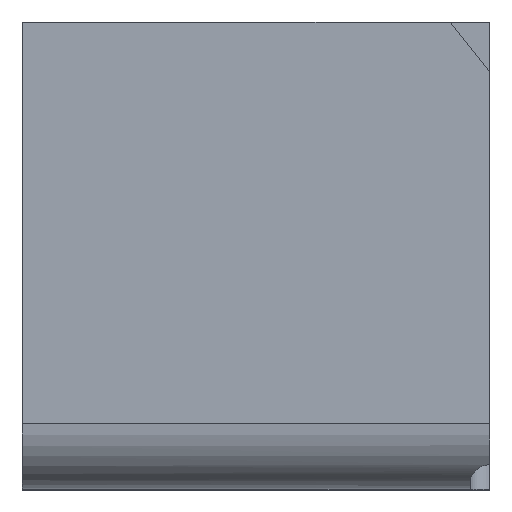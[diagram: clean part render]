
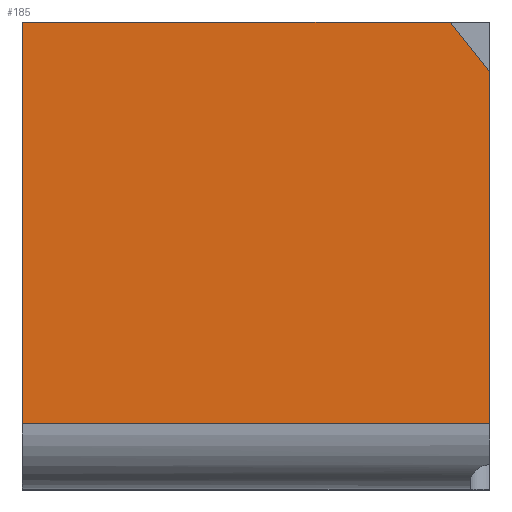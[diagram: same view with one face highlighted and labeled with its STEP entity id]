
A CAD part, top view. The second image highlights one B-rep face of the part: STEP entity #185.
In plain terms, the highlighted planar face has unit normal (0, 0, 1).
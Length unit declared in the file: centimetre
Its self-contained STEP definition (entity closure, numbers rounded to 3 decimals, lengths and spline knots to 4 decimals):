
#15 = CARTESIAN_POINT ( 'NONE',  ( 0., 140.2189, 1000. ) ) ;
#23 = CARTESIAN_POINT ( 'NONE',  ( 0., 1000., 1000. ) ) ;
#68 = LINE ( 'NONE', #582, #768 ) ;
#81 = ORIENTED_EDGE ( 'NONE', *, *, #195, .T. ) ;
#93 = EDGE_LOOP ( 'NONE', ( #264, #81, #915, #530, #583 ) ) ;
#112 = LINE ( 'NONE', #542, #851 ) ;
#138 = EDGE_CURVE ( 'NONE', #683, #772, #499, .T. ) ;
#140 = CARTESIAN_POINT ( 'NONE',  ( 0., 1000., 1000. ) ) ;
#183 = AXIS2_PLACEMENT_3D ( 'NONE', #529, #770, #188 ) ;
#185 = ADVANCED_FACE ( 'NONE', ( #619 ), #535, .T. ) ;
#188 = DIRECTION ( 'NONE',  ( 1., 0., 0. ) ) ;
#195 = EDGE_CURVE ( 'NONE', #351, #683, #112, .T. ) ;
#209 = EDGE_CURVE ( 'NONE', #772, #814, #491, .T. ) ;
#234 = CARTESIAN_POINT ( 'NONE',  ( 1000., 893.8694, 1000. ) ) ;
#264 = ORIENTED_EDGE ( 'NONE', *, *, #615, .F. ) ;
#268 = CARTESIAN_POINT ( 'NONE',  ( 915.8364, 1000., 1000. ) ) ;
#351 = VERTEX_POINT ( 'NONE', #268 ) ;
#402 = EDGE_CURVE ( 'NONE', #814, #781, #759, .T. ) ;
#428 = DIRECTION ( 'NONE',  ( 0., -1., 0. ) ) ;
#465 = VECTOR ( 'NONE', #822, 100. ) ;
#468 = DIRECTION ( 'NONE',  ( -1., 0., 0. ) ) ;
#491 = LINE ( 'NONE', #914, #465 ) ;
#499 = LINE ( 'NONE', #140, #550 ) ;
#511 = DIRECTION ( 'NONE',  ( 0.621, -0.784, 0. ) ) ;
#529 = CARTESIAN_POINT ( 'NONE',  ( 0., 0., 1000. ) ) ;
#530 = ORIENTED_EDGE ( 'NONE', *, *, #209, .T. ) ;
#535 = PLANE ( 'NONE',  #183 ) ;
#542 = CARTESIAN_POINT ( 'NONE',  ( 0., 1000., 1000. ) ) ;
#550 = VECTOR ( 'NONE', #428, 100. ) ;
#582 = CARTESIAN_POINT ( 'NONE',  ( 1000., 893.8694, 1000. ) ) ;
#583 = ORIENTED_EDGE ( 'NONE', *, *, #402, .T. ) ;
#615 = EDGE_CURVE ( 'NONE', #351, #781, #68, .T. ) ;
#619 = FACE_OUTER_BOUND ( 'NONE', #93, .T. ) ;
#683 = VERTEX_POINT ( 'NONE', #23 ) ;
#759 = LINE ( 'NONE', #819, #760 ) ;
#760 = VECTOR ( 'NONE', #763, 100. ) ;
#763 = DIRECTION ( 'NONE',  ( 0., 1., 0. ) ) ;
#768 = VECTOR ( 'NONE', #511, 100. ) ;
#770 = DIRECTION ( 'NONE',  ( 0., 0., 1. ) ) ;
#772 = VERTEX_POINT ( 'NONE', #15 ) ;
#781 = VERTEX_POINT ( 'NONE', #234 ) ;
#814 = VERTEX_POINT ( 'NONE', #860 ) ;
#819 = CARTESIAN_POINT ( 'NONE',  ( 1000., 1000., 1000. ) ) ;
#822 = DIRECTION ( 'NONE',  ( 1., 0., 0. ) ) ;
#851 = VECTOR ( 'NONE', #468, 100. ) ;
#860 = CARTESIAN_POINT ( 'NONE',  ( 1000., 140.2189, 1000. ) ) ;
#914 = CARTESIAN_POINT ( 'NONE',  ( 1000., 140.2189, 1000. ) ) ;
#915 = ORIENTED_EDGE ( 'NONE', *, *, #138, .T. ) ;
